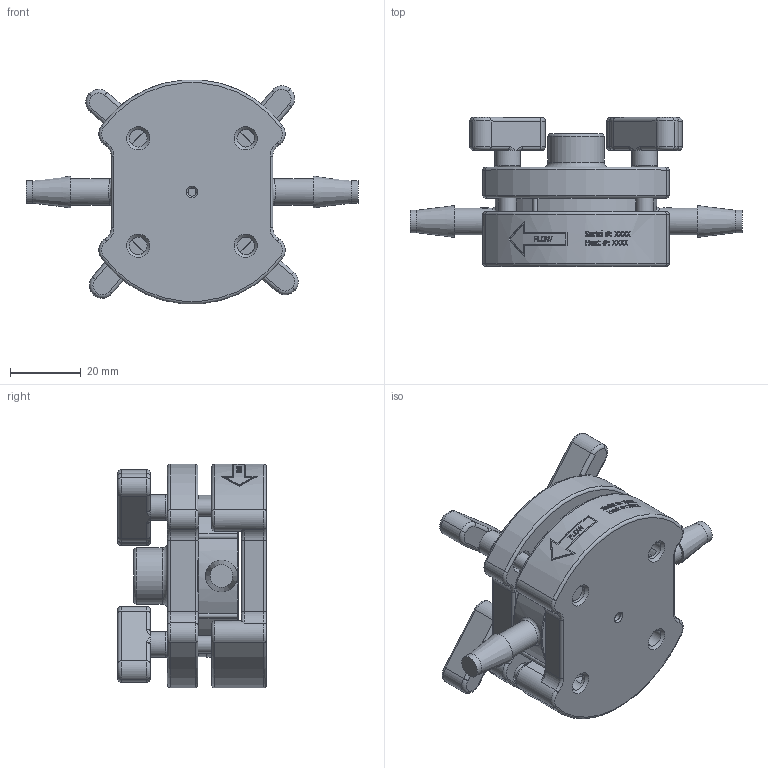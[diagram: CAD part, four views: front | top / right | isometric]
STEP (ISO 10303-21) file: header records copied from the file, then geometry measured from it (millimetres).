
FILE_DESCRIPTION(/* description */ (''),/* implementation_level */ '2;1');
FILE_NAME(/* name */ 'SDO2-CA-G6 Installation Assembly.stp',/* time_stamp */ '2024-08-16T13:09:38-04:00',/* author */ ('kdone'),/* organization */ (''),/* preprocessor_version */ 'ST-DEVELOPER v19.2',/* originating_system */ 'Autodesk Inventor 2023',/* authorisation */ '');
FILE_SCHEMA (('AUTOMOTIVE_DESIGN { 1 0 10303 214 3 1 1 }'));
Products named in the file (1): SDO2-CA-G6 Installation Assembly_Simplify_2
Bounding box: 93.98 x 42.13 x 63.28 mm (x, y, z)
Volume: 60034.7 mm3; surface area: 29869 mm2
Topology: 1 solids, 1 shells, 1739 faces, 4658 edges, 3024 vertices
Faces by surface type: plane 1022, bspline 374, cylinder 175, torus 131, cone 37
Full cylindrical faces by diameter (mm): 2.286 x1, 4.572 x1, 4.902 x4, 4.978 x8, 6.35 x2, 6.528 x4, 7.29 x4, 7.62 x2, 8.306 x1, 15.875 x1, 43.508 x2, 44.272 x1
Entity records: 63154 total; most frequent: CARTESIAN_POINT 19358, ORIENTED_EDGE 9280, DIRECTION 7771, EDGE_CURVE 4640, VERTEX_POINT 3024, LINE 3015, VECTOR 3015, AXIS2_PLACEMENT_3D 2378
